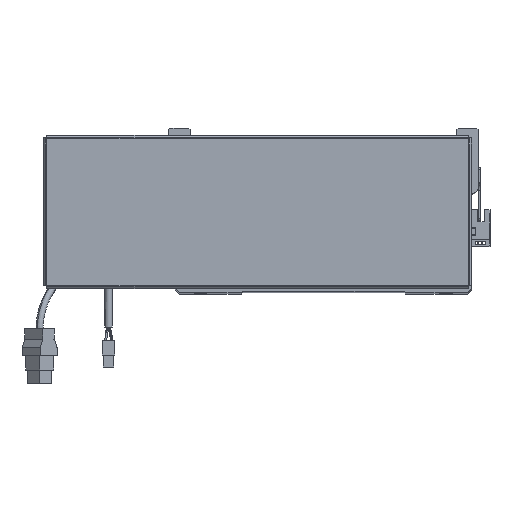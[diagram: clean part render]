
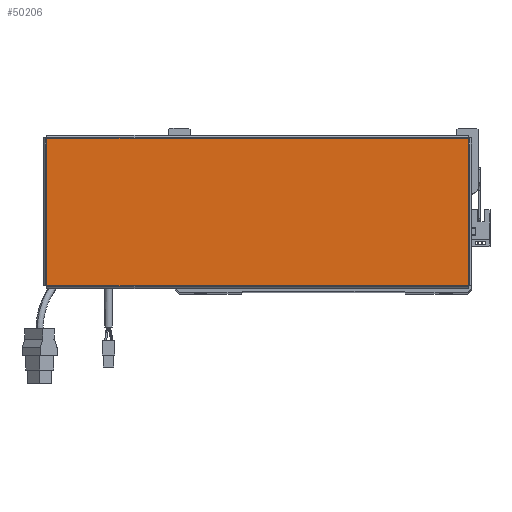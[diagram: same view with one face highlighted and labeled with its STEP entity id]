
A CAD part, top view. The second image highlights one B-rep face of the part: STEP entity #50206.
In plain terms, the highlighted planar face has unit normal (0, 0, 1).
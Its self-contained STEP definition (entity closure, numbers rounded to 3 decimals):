
#612 = VERTEX_POINT ( 'NONE', #66220 ) ;
#731 = VECTOR ( 'NONE', #31164, 1000. ) ;
#1248 = DIRECTION ( 'NONE',  ( 1., 0., 0. ) ) ;
#2519 = CARTESIAN_POINT ( 'NONE',  ( 156.513, 54.763, 0. ) ) ;
#4095 = FACE_OUTER_BOUND ( 'NONE', #36665, .T. ) ;
#4826 = VECTOR ( 'NONE', #7839, 1000. ) ;
#7839 = DIRECTION ( 'NONE',  ( 0., 1., 0. ) ) ;
#8997 = ORIENTED_EDGE ( 'NONE', *, *, #21603, .T. ) ;
#11290 = CARTESIAN_POINT ( 'NONE',  ( -156.543, -54.763, 0. ) ) ;
#12213 = DIRECTION ( 'NONE',  ( 0., 0., 1. ) ) ;
#14406 = VERTEX_POINT ( 'NONE', #2519 ) ;
#15464 = LINE ( 'NONE', #11290, #34808 ) ;
#21603 = EDGE_CURVE ( 'NONE', #55634, #612, #15464, .T. ) ;
#22342 = CARTESIAN_POINT ( 'NONE',  ( -156.513, 54.793, 0. ) ) ;
#25492 = VECTOR ( 'NONE', #36757, 1000. ) ;
#27338 = LINE ( 'NONE', #32182, #4826 ) ;
#27358 = ORIENTED_EDGE ( 'NONE', *, *, #60260, .T. ) ;
#27567 = ORIENTED_EDGE ( 'NONE', *, *, #36389, .T. ) ;
#31164 = DIRECTION ( 'NONE',  ( -1., 0., 0. ) ) ;
#32182 = CARTESIAN_POINT ( 'NONE',  ( 156.513, -54.793, 0. ) ) ;
#34808 = VECTOR ( 'NONE', #1248, 1000. ) ;
#35106 = EDGE_CURVE ( 'NONE', #14406, #62260, #49758, .T. ) ;
#35162 = LINE ( 'NONE', #22342, #25492 ) ;
#36389 = EDGE_CURVE ( 'NONE', #62260, #55634, #35162, .T. ) ;
#36665 = EDGE_LOOP ( 'NONE', ( #8997, #27358, #43560, #27567 ) ) ;
#36757 = DIRECTION ( 'NONE',  ( 0., -1., 0. ) ) ;
#38522 = DIRECTION ( 'NONE',  ( 1., 0., 0. ) ) ;
#43454 = CARTESIAN_POINT ( 'NONE',  ( 0., 0., 0. ) ) ;
#43560 = ORIENTED_EDGE ( 'NONE', *, *, #35106, .T. ) ;
#43805 = AXIS2_PLACEMENT_3D ( 'NONE', #43454, #12213, #38522 ) ;
#47304 = CARTESIAN_POINT ( 'NONE',  ( 156.543, 54.763, 0. ) ) ;
#49758 = LINE ( 'NONE', #47304, #731 ) ;
#50206 = ADVANCED_FACE ( 'NONE', ( #4095 ), #64307, .T. ) ;
#55634 = VERTEX_POINT ( 'NONE', #62098 ) ;
#58967 = CARTESIAN_POINT ( 'NONE',  ( -156.513, 54.763, 0. ) ) ;
#60260 = EDGE_CURVE ( 'NONE', #612, #14406, #27338, .T. ) ;
#62098 = CARTESIAN_POINT ( 'NONE',  ( -156.513, -54.763, 0. ) ) ;
#62260 = VERTEX_POINT ( 'NONE', #58967 ) ;
#64307 = PLANE ( 'NONE',  #43805 ) ;
#66220 = CARTESIAN_POINT ( 'NONE',  ( 156.513, -54.763, 0. ) ) ;
